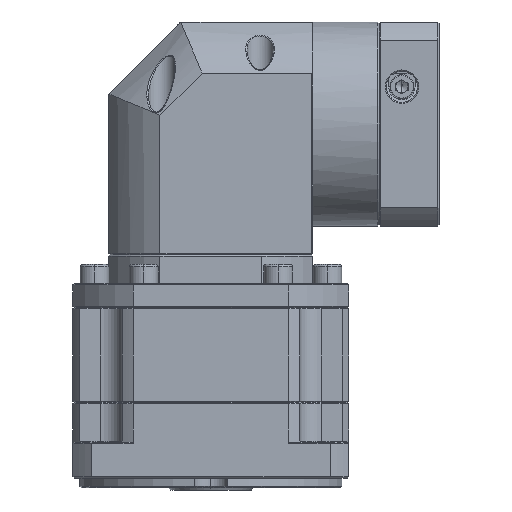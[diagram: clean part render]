
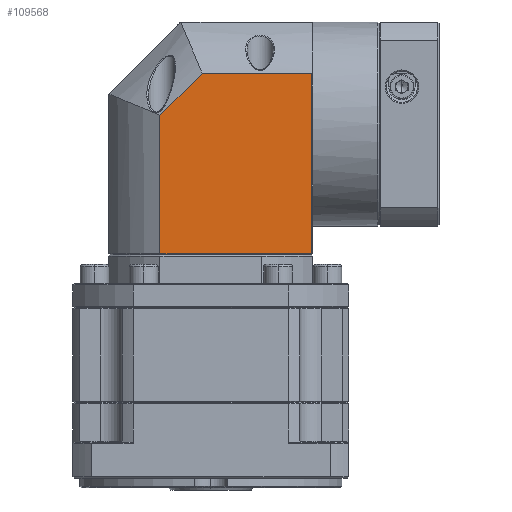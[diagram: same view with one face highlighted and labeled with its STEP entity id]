
A CAD part, front view. The second image highlights one B-rep face of the part: STEP entity #109568.
In plain terms, the highlighted planar face has unit normal (0, -1, 0).
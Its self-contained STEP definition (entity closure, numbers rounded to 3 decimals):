
#415 = LINE ( 'NONE', #103176, #79172 ) ;
#2650 = CARTESIAN_POINT ( 'NONE',  ( 112.784, 48.14, -24.452 ) ) ;
#4374 = ORIENTED_EDGE ( 'NONE', *, *, #86165, .F. ) ;
#4694 = VERTEX_POINT ( 'NONE', #54180 ) ;
#4801 = EDGE_LOOP ( 'NONE', ( #10397, #4374, #57829, #111048, #60685 ) ) ;
#5589 = CARTESIAN_POINT ( 'NONE',  ( 49.071, 48.14, 72.048 ) ) ;
#6545 = VERTEX_POINT ( 'NONE', #86864 ) ;
#9065 = VERTEX_POINT ( 'NONE', #69829 ) ;
#10397 = ORIENTED_EDGE ( 'NONE', *, *, #102272, .T. ) ;
#18762 = FACE_OUTER_BOUND ( 'NONE', #4801, .T. ) ;
#22818 = EDGE_CURVE ( 'NONE', #9065, #6545, #415, .T. ) ;
#23111 = LINE ( 'NONE', #5589, #117172 ) ;
#25346 = VERTEX_POINT ( 'NONE', #106743 ) ;
#34047 = DIRECTION ( 'NONE',  ( 0., 1., 0. ) ) ;
#36518 = LINE ( 'NONE', #73689, #80495 ) ;
#37824 = DIRECTION ( 'NONE',  ( 0.707, 0., 0.707 ) ) ;
#43381 = CARTESIAN_POINT ( 'NONE',  ( 112.284, 48.14, -24.452 ) ) ;
#44653 = DIRECTION ( 'NONE',  ( 1., 0., 0. ) ) ;
#54180 = CARTESIAN_POINT ( 'NONE',  ( 49.071, 48.14, -24.452 ) ) ;
#56077 = PLANE ( 'NONE',  #59947 ) ;
#57829 = ORIENTED_EDGE ( 'NONE', *, *, #22818, .F. ) ;
#57968 = VERTEX_POINT ( 'NONE', #43381 ) ;
#59391 = LINE ( 'NONE', #2650, #120107 ) ;
#59947 = AXIS2_PLACEMENT_3D ( 'NONE', #124007, #34047, #101867 ) ;
#60685 = ORIENTED_EDGE ( 'NONE', *, *, #110019, .F. ) ;
#63542 = DIRECTION ( 'NONE',  ( 0., 0., -1. ) ) ;
#68387 = CARTESIAN_POINT ( 'NONE',  ( 49.071, 48.14, 33.231 ) ) ;
#69829 = CARTESIAN_POINT ( 'NONE',  ( 66.602, 48.14, 50.761 ) ) ;
#73689 = CARTESIAN_POINT ( 'NONE',  ( 112.284, 48.14, 72.048 ) ) ;
#75439 = LINE ( 'NONE', #68387, #82941 ) ;
#79172 = VECTOR ( 'NONE', #44653, 1000. ) ;
#80495 = VECTOR ( 'NONE', #63542, 1000. ) ;
#82941 = VECTOR ( 'NONE', #37824, 1000. ) ;
#86165 = EDGE_CURVE ( 'NONE', #6545, #57968, #36518, .T. ) ;
#86864 = CARTESIAN_POINT ( 'NONE',  ( 112.284, 48.14, 50.761 ) ) ;
#91555 = DIRECTION ( 'NONE',  ( 0., 0., 1. ) ) ;
#101867 = DIRECTION ( 'NONE',  ( -1., 0., 0. ) ) ;
#102272 = EDGE_CURVE ( 'NONE', #4694, #57968, #59391, .T. ) ;
#103176 = CARTESIAN_POINT ( 'NONE',  ( 112.784, 48.14, 50.761 ) ) ;
#106743 = CARTESIAN_POINT ( 'NONE',  ( 49.071, 48.14, 33.231 ) ) ;
#107373 = DIRECTION ( 'NONE',  ( 1., 0., 0. ) ) ;
#109568 = ADVANCED_FACE ( 'NONE', ( #18762 ), #56077, .F. ) ;
#110019 = EDGE_CURVE ( 'NONE', #4694, #25346, #23111, .T. ) ;
#111048 = ORIENTED_EDGE ( 'NONE', *, *, #111349, .F. ) ;
#111349 = EDGE_CURVE ( 'NONE', #25346, #9065, #75439, .T. ) ;
#117172 = VECTOR ( 'NONE', #91555, 1000. ) ;
#120107 = VECTOR ( 'NONE', #107373, 1000. ) ;
#124007 = CARTESIAN_POINT ( 'NONE',  ( 112.784, 48.14, 72.048 ) ) ;
